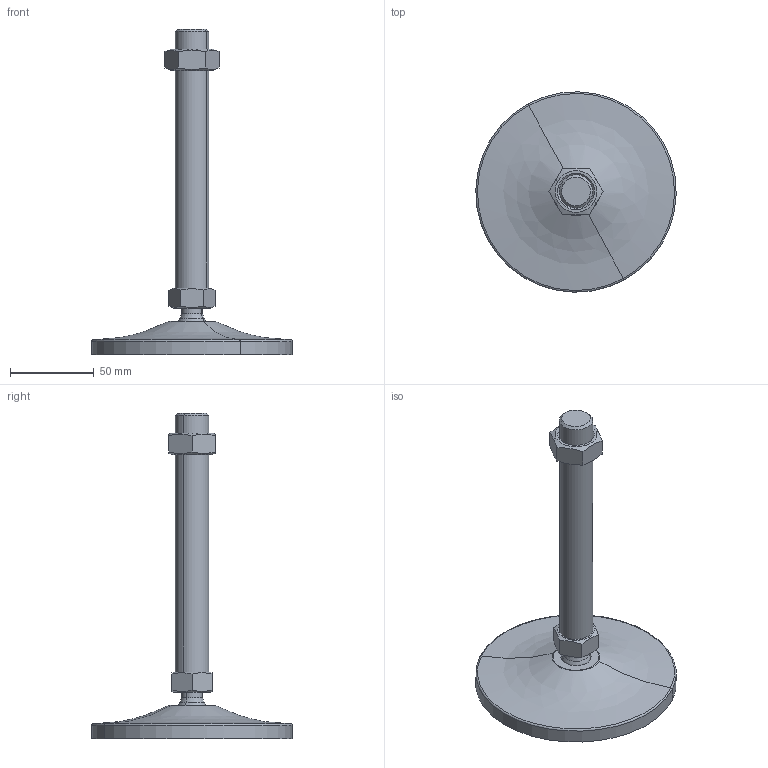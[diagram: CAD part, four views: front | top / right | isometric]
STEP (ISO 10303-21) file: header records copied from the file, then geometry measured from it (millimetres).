
FILE_DESCRIPTION(('CATIA V5 STEP Exchange'),'2;1');
FILE_NAME('C:\Users\ALI OZGUN\Desktop\alhan\saplama2\560122021.stp','2017-09-21T10:36:08+00:00',('none'),('none'),'CATIA Version 5 Release 21 GA (IN-10)','CATIA V5 STEP AP203','none');
FILE_SCHEMA(('CONFIG_CONTROL_DESIGN'));
Length unit declared in the file: millimetre
Products named in the file (1): 560122021
Bounding box: 119.97 x 119.97 x 195 mm (x, y, z)
Volume: 146794.5 mm3; surface area: 43270 mm2
Topology: 3 solids, 3 shells, 60 faces, 136 edges, 83 vertices
Faces by surface type: plane 20, cone 16, cylinder 14, torus 4, revolution 4, sphere 2
Entity records: 1878 total; most frequent: CARTESIAN_POINT 636, ORIENTED_EDGE 268, DIRECTION 185, EDGE_CURVE 134, AXIS2_PLACEMENT_3D 99, VERTEX_POINT 83, EDGE_LOOP 67, ADVANCED_FACE 60
